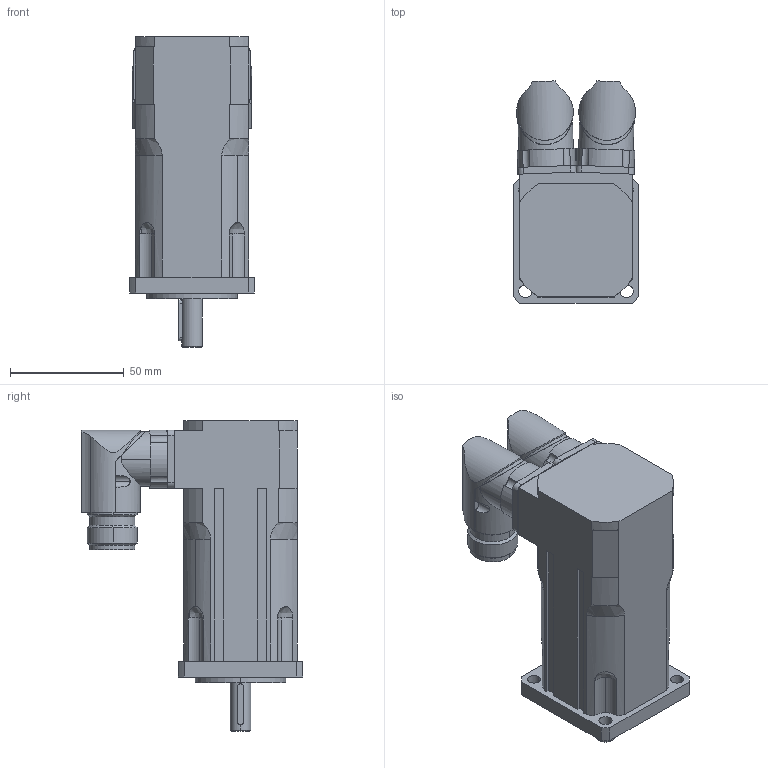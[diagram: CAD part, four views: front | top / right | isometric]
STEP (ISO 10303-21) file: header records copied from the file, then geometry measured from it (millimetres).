
FILE_DESCRIPTION(('STEP AP203'),'2;1');
FILE_NAME('MT2-0040.stp','2006-08-28T20:00:00',(''),(''),'2005.2.102','THINKDESIGN','');
FILE_SCHEMA(('CONFIG_CONTROL_DESIGN'));
Length unit declared in the file: millimetre
Bounding box: 55 x 97.7 x 137 mm (x, y, z)
Volume: 324167.4 mm3; surface area: 49809.9 mm2
Topology: 3 solids, 3 shells, 264 faces, 698 edges, 450 vertices
Faces by surface type: cylinder 118, plane 102, bspline 44
Entity records: 9929 total; most frequent: CARTESIAN_POINT 3292, ORIENTED_EDGE 1396, DIRECTION 1372, EDGE_CURVE 698, AXIS2_PLACEMENT_3D 524, VERTEX_POINT 450, VECTOR 324, LINE 324
